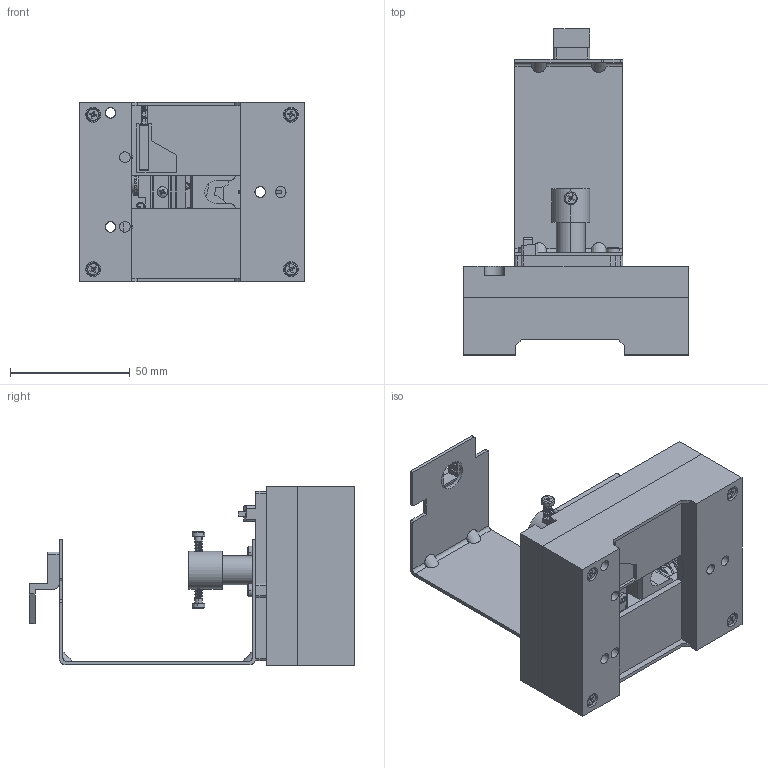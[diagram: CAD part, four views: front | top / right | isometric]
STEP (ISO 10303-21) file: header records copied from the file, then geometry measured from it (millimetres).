
FILE_DESCRIPTION (( 'STEP AP214' ), '1' );
FILE_NAME ('Ðóêîÿòêà ïîâîðîòíàÿ âûíîñíàÿ OptiMat E ÃÆÈÊ.301142.138_1.STEP', '2016-06-10T07:09:03', ( 'ugk-47' ), ( '' ), 'SwSTEP 2.0', 'SolidWorks 2012', '' );
FILE_SCHEMA (( 'AUTOMOTIVE_DESIGN' ));
Length unit declared in the file: millimetre
Products named in the file (15): ¦ýþÿúð +¦L¦.753314.008_Êíîïêà ÃÆÈÊ.753314.008; ¦¨ºöøýð +¦L¦.753512.132_Ïðóæèíà ÃÆÈÊ.753512.132; ¦¨ºöøýð +¦L¦.753512.133_Ïðóæèíà ÃÆÈÊ.753512.133 (äëÿ ñáîðêè); ¦þûõ¸þ ÷ºñ¢ðªþõ +¦L¦.721141.001_Êîëåñî çóá÷àòîå ÃÆÈÊ.721141.001; Tøýªv ¸ðüþýð¨õ÷ð¦•øõ ¸ ÿþûºú¨ºóûþù óþûþòúþù  ++TT 11650-80_Âèíò 2-2,5õ8.01.016 ÃÎÑÒ 11650-80; ¦þ¨ÿº¸ +¦L¦.731153.022_Êîðïóñ ÃÆÈÊ.731153.022; Túþñð +¦L¦.745412.010_Ñêîáà ÃÆÈÊ.745412.010; ¦ð¨õªúð +¦L¦.751811.001_Êàðåòêà ÃÆÈÊ.751811.001; Ðóêîÿòêà ïîâîðîòíàÿ âûíîñíàÿ OptiMat E ÃÆÈÊ.301142.138_1; Tª¨õûúð +¦L¦.745352.025_Ñòðåëêà ÃÆÈÊ.745352.025; Tøýª +¦L¦.758151.066_Âèíò ÃÆÈÊ.758151.066; ¦¨v°úð +¦L¦.735584.048_Êðûøêà ÃÆÈÊ.735584.048; T +ｦLｦ.715351.005_ﾂ琿 ﾃﾆﾈﾊ.715351.005; Túþñð +¦L¦.745322.038_Ñêîáà ÃÆÈÊ.745322.038; Tøýª +¦L¦.758151.068
Assembly tree (23 placements, depth 2):
  Ðóêîÿòêà ïîâîðîòíàÿ âûíîñíàÿ OptiMat E ÃÆÈÊ.301142.138_1
    ¦þ¨ÿº¸ +¦L¦.731153.022_Êîðïóñ ÃÆÈÊ.731153.022
    ¦ð¨õªúð +¦L¦.751811.001_Êàðåòêà ÃÆÈÊ.751811.001
    Túþñð +¦L¦.745412.010_Ñêîáà ÃÆÈÊ.745412.010  x2
    Tøýªv ¸ðüþýð¨õ÷ð¦•øõ ¸ ÿþûºú¨ºóûþù óþûþòúþù  ++TT 11650-80_Âèíò 2-2,5õ8.01.016 ÃÎÑÒ 11650-80
    ¦¨ºöøýð +¦L¦.753512.132_Ïðóæèíà ÃÆÈÊ.753512.132  x2
    ¦ýþÿúð +¦L¦.753314.008_Êíîïêà ÃÆÈÊ.753314.008
    ¦¨ºöøýð +¦L¦.753512.133_Ïðóæèíà ÃÆÈÊ.753512.133 (äëÿ ñáîðêè)
    ¦þûõ¸þ ÷ºñ¢ðªþõ +¦L¦.721141.001_Êîëåñî çóá÷àòîå ÃÆÈÊ.721141.001
    ¦¨v°úð +¦L¦.735584.048_Êðûøêà ÃÆÈÊ.735584.048
    Tøýª +¦L¦.758151.066_Âèíò ÃÆÈÊ.758151.066  x5
    T +ｦLｦ.715351.005_ﾂ琿 ﾃﾆﾈﾊ.715351.005
    Túþñð +¦L¦.745322.038_Ñêîáà ÃÆÈÊ.745322.038
    Tøýª +¦L¦.758151.068  x4
    Tª¨õûúð +¦L¦.745352.025_Ñòðåëêà ÃÆÈÊ.745352.025
Bounding box: 94 x 136 x 75 mm (x, y, z)
Volume: 118014.8 mm3; surface area: 109292.9 mm2
Topology: 23 solids, 23 shells, 1611 faces, 4375 edges, 2837 vertices
Faces by surface type: plane 704, cylinder 666, cone 149, bspline 92
Entity records: 58406 total; most frequent: CARTESIAN_POINT 20195, ORIENTED_EDGE 5674, DIRECTION 5258, EDGE_CURVE 2837, VERTEX_POINT 1860, AXIS2_PLACEMENT_3D 1760, VECTOR 1738, LINE 1738
